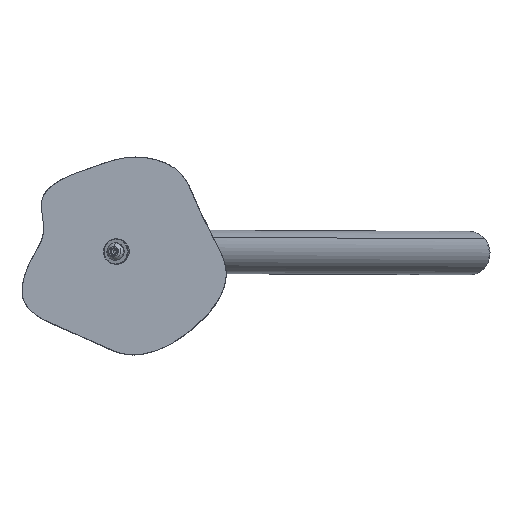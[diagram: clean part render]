
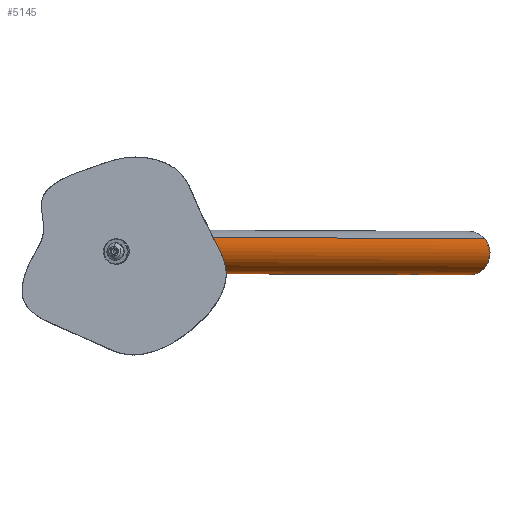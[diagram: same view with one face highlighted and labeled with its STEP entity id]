
A CAD part, top view. The second image highlights one B-rep face of the part: STEP entity #5145.
In plain terms, the highlighted cylindrical face has radius 13.716 mm (diameter 27.432 mm), a partial arc.
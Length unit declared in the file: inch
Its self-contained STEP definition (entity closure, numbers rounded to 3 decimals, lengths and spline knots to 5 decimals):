
#191 = ORIENTED_EDGE ( 'NONE', *, *, #2679, .F. ) ;
#398 = CARTESIAN_POINT ( 'NONE',  ( 0., 0., 0.54 ) ) ;
#682 = DIRECTION ( 'NONE',  ( 0., 0., -1. ) ) ;
#1029 = EDGE_LOOP ( 'NONE', ( #1507, #11345, #191, #9516 ) ) ;
#1434 = VERTEX_POINT ( 'NONE', #7972 ) ;
#1453 = DIRECTION ( 'NONE',  ( 1., 0., 0. ) ) ;
#1507 = ORIENTED_EDGE ( 'NONE', *, *, #2052, .T. ) ;
#2052 = EDGE_CURVE ( 'NONE', #13012, #1434, #5058, .T. ) ;
#2177 = EDGE_CURVE ( 'NONE', #13012, #11379, #6898, .T. ) ;
#2679 = EDGE_CURVE ( 'NONE', #11379, #4848, #12891, .T. ) ;
#3096 = DIRECTION ( 'NONE',  ( 1., 0., 0. ) ) ;
#4091 = DIRECTION ( 'NONE',  ( 1., 0., 0. ) ) ;
#4331 = VECTOR ( 'NONE', #12842, 39.37008 ) ;
#4848 = VERTEX_POINT ( 'NONE', #10489 ) ;
#5058 = CIRCLE ( 'NONE', #11249, 0.54 ) ;
#5145 = ADVANCED_FACE ( 'NONE', ( #5158 ), #10516, .T. ) ;
#5158 = FACE_OUTER_BOUND ( 'NONE', #1029, .T. ) ;
#6432 = CARTESIAN_POINT ( 'NONE',  ( 0., 0., -0.54 ) ) ;
#6898 = LINE ( 'NONE', #6432, #4331 ) ;
#7236 = DIRECTION ( 'NONE',  ( 1., 0., 0. ) ) ;
#7938 = CARTESIAN_POINT ( 'NONE',  ( -24., 0., -0.54 ) ) ;
#7972 = CARTESIAN_POINT ( 'NONE',  ( -24., 0., 0.54 ) ) ;
#8582 = CARTESIAN_POINT ( 'NONE',  ( 0., 0., 0. ) ) ;
#8905 = AXIS2_PLACEMENT_3D ( 'NONE', #8582, #3096, #10571 ) ;
#9176 = VECTOR ( 'NONE', #1453, 39.37008 ) ;
#9489 = LINE ( 'NONE', #398, #9176 ) ;
#9516 = ORIENTED_EDGE ( 'NONE', *, *, #2177, .F. ) ;
#10489 = CARTESIAN_POINT ( 'NONE',  ( 0., 0., 0.54 ) ) ;
#10516 = CYLINDRICAL_SURFACE ( 'NONE', #8905, 0.54 ) ;
#10571 = DIRECTION ( 'NONE',  ( 0., 0., -1. ) ) ;
#10578 = CARTESIAN_POINT ( 'NONE',  ( -24., 0., 0. ) ) ;
#10758 = AXIS2_PLACEMENT_3D ( 'NONE', #13627, #7236, #682 ) ;
#10782 = EDGE_CURVE ( 'NONE', #1434, #4848, #9489, .T. ) ;
#11249 = AXIS2_PLACEMENT_3D ( 'NONE', #10578, #4091, #11631 ) ;
#11345 = ORIENTED_EDGE ( 'NONE', *, *, #10782, .T. ) ;
#11379 = VERTEX_POINT ( 'NONE', #13914 ) ;
#11631 = DIRECTION ( 'NONE',  ( 0., 0., -1. ) ) ;
#12842 = DIRECTION ( 'NONE',  ( 1., 0., 0. ) ) ;
#12891 = CIRCLE ( 'NONE', #10758, 0.54 ) ;
#13012 = VERTEX_POINT ( 'NONE', #7938 ) ;
#13627 = CARTESIAN_POINT ( 'NONE',  ( 0., 0., 0. ) ) ;
#13914 = CARTESIAN_POINT ( 'NONE',  ( 0., 0., -0.54 ) ) ;
